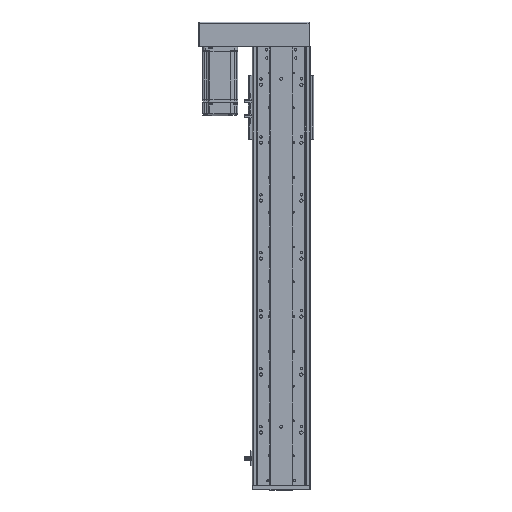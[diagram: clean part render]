
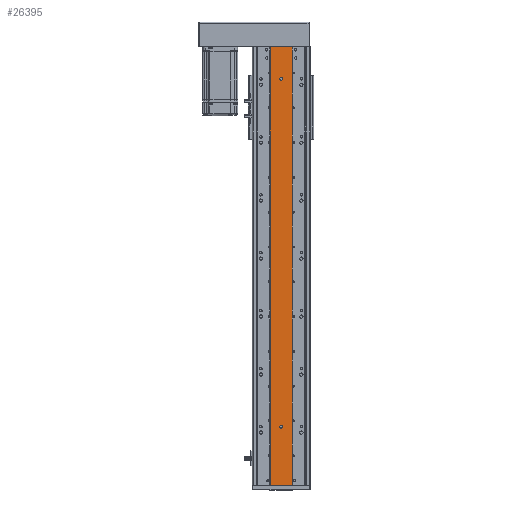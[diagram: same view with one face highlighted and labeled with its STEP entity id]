
A CAD part, top view. The second image highlights one B-rep face of the part: STEP entity #26395.
In plain terms, the highlighted planar face has unit normal (0, 0, 1).
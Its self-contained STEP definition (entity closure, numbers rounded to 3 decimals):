
#1651 = FACE_BOUND ( 'NONE', #31533, .T. ) ;
#1698 = FACE_OUTER_BOUND ( 'NONE', #31538, .T. ) ;
#1709 = FACE_BOUND ( 'NONE', #8040, .T. ) ;
#2670 = LINE ( 'NONE', #42540, #2678 ) ;
#2678 = VECTOR ( 'NONE', #42533, 1000. ) ;
#2750 = CIRCLE ( 'NONE', #6167, 2.5 ) ;
#2759 = VECTOR ( 'NONE', #42828, 1000. ) ;
#2766 = LINE ( 'NONE', #42788, #2780 ) ;
#2780 = VECTOR ( 'NONE', #42804, 1000. ) ;
#2807 = LINE ( 'NONE', #42827, #2759 ) ;
#2814 = CIRCLE ( 'NONE', #6159, 2.5 ) ;
#2828 = VECTOR ( 'NONE', #41299, 1000. ) ;
#2851 = LINE ( 'NONE', #41322, #2828 ) ;
#5846 = AXIS2_PLACEMENT_3D ( 'NONE', #32676, #32678, #32657 ) ;
#5858 = AXIS2_PLACEMENT_3D ( 'NONE', #32693, #32727, #32715 ) ;
#6159 = AXIS2_PLACEMENT_3D ( 'NONE', #42888, #42889, #42894 ) ;
#6167 = AXIS2_PLACEMENT_3D ( 'NONE', #42746, #42702, #42726 ) ;
#8040 = EDGE_LOOP ( 'NONE', ( #9925, #9957 ) ) ;
#9925 = ORIENTED_EDGE ( 'NONE', *, *, #48463, .T. ) ;
#9935 = ORIENTED_EDGE ( 'NONE', *, *, #48447, .T. ) ;
#9951 = ORIENTED_EDGE ( 'NONE', *, *, #49790, .T. ) ;
#9955 = ORIENTED_EDGE ( 'NONE', *, *, #49898, .F. ) ;
#9957 = ORIENTED_EDGE ( 'NONE', *, *, #49887, .T. ) ;
#9969 = ORIENTED_EDGE ( 'NONE', *, *, #49830, .T. ) ;
#9974 = ORIENTED_EDGE ( 'NONE', *, *, #49867, .T. ) ;
#9975 = ORIENTED_EDGE ( 'NONE', *, *, #49854, .F. ) ;
#11750 = CARTESIAN_POINT ( 'NONE',  ( -10645.079, 0., -17040.86 ) ) ;
#11751 = CARTESIAN_POINT ( 'NONE',  ( -10607.079, 0., -17040.86 ) ) ;
#11774 = CARTESIAN_POINT ( 'NONE',  ( -10645.079, 756., -17040.86 ) ) ;
#11840 = CARTESIAN_POINT ( 'NONE',  ( -10607.079, 756., -17040.86 ) ) ;
#15147 = CIRCLE ( 'NONE', #5858, 2.5 ) ;
#15169 = CIRCLE ( 'NONE', #5846, 2.5 ) ;
#19221 = AXIS2_PLACEMENT_3D ( 'NONE', #38457, #38476, #38467 ) ;
#23506 = VERTEX_POINT ( 'NONE', #11750 ) ;
#23547 = VERTEX_POINT ( 'NONE', #11751 ) ;
#23555 = VERTEX_POINT ( 'NONE', #11774 ) ;
#23596 = VERTEX_POINT ( 'NONE', #11840 ) ;
#26395 = ADVANCED_FACE ( 'NONE', ( #1651, #1709, #1698 ), #38480, .F. ) ;
#29028 = VERTEX_POINT ( 'NONE', #37520 ) ;
#29047 = VERTEX_POINT ( 'NONE', #37582 ) ;
#29055 = VERTEX_POINT ( 'NONE', #37586 ) ;
#29057 = VERTEX_POINT ( 'NONE', #37553 ) ;
#31533 = EDGE_LOOP ( 'NONE', ( #9935, #9969 ) ) ;
#31538 = EDGE_LOOP ( 'NONE', ( #9974, #9955, #9975, #9951 ) ) ;
#32657 = DIRECTION ( 'NONE',  ( -1., 0., 0. ) ) ;
#32676 = CARTESIAN_POINT ( 'NONE',  ( -10626.079, 701., -17040.86 ) ) ;
#32678 = DIRECTION ( 'NONE',  ( 0., 0., -1. ) ) ;
#32693 = CARTESIAN_POINT ( 'NONE',  ( -10626.079, 101., -17040.86 ) ) ;
#32715 = DIRECTION ( 'NONE',  ( -1., 0., 0. ) ) ;
#32727 = DIRECTION ( 'NONE',  ( 0., 0., -1. ) ) ;
#37520 = CARTESIAN_POINT ( 'NONE',  ( -10628.579, 701., -17040.86 ) ) ;
#37553 = CARTESIAN_POINT ( 'NONE',  ( -10623.579, 101., -17040.86 ) ) ;
#37582 = CARTESIAN_POINT ( 'NONE',  ( -10623.579, 701., -17040.86 ) ) ;
#37586 = CARTESIAN_POINT ( 'NONE',  ( -10628.579, 101., -17040.86 ) ) ;
#38457 = CARTESIAN_POINT ( 'NONE',  ( -10645.079, 756., -17040.86 ) ) ;
#38467 = DIRECTION ( 'NONE',  ( -1., 0., 0. ) ) ;
#38476 = DIRECTION ( 'NONE',  ( 0., 0., -1. ) ) ;
#38480 = PLANE ( 'NONE',  #19221 ) ;
#41299 = DIRECTION ( 'NONE',  ( 0., -1., 0. ) ) ;
#41322 = CARTESIAN_POINT ( 'NONE',  ( -10607.079, 756., -17040.86 ) ) ;
#42533 = DIRECTION ( 'NONE',  ( 0., -1., 0. ) ) ;
#42540 = CARTESIAN_POINT ( 'NONE',  ( -10645.079, 756., -17040.86 ) ) ;
#42702 = DIRECTION ( 'NONE',  ( 0., 0., -1. ) ) ;
#42726 = DIRECTION ( 'NONE',  ( -1., 0., 0. ) ) ;
#42746 = CARTESIAN_POINT ( 'NONE',  ( -10626.079, 701., -17040.86 ) ) ;
#42788 = CARTESIAN_POINT ( 'NONE',  ( -10645.079, 756., -17040.86 ) ) ;
#42804 = DIRECTION ( 'NONE',  ( 1., 0., 0. ) ) ;
#42827 = CARTESIAN_POINT ( 'NONE',  ( -10645.079, 0., -17040.86 ) ) ;
#42828 = DIRECTION ( 'NONE',  ( 1., 0., 0. ) ) ;
#42888 = CARTESIAN_POINT ( 'NONE',  ( -10626.079, 101., -17040.86 ) ) ;
#42889 = DIRECTION ( 'NONE',  ( 0., 0., -1. ) ) ;
#42894 = DIRECTION ( 'NONE',  ( -1., 0., 0. ) ) ;
#48447 = EDGE_CURVE ( 'NONE', #29047, #29028, #15169, .T. ) ;
#48463 = EDGE_CURVE ( 'NONE', #29057, #29055, #15147, .T. ) ;
#49790 = EDGE_CURVE ( 'NONE', #23555, #23506, #2670, .T. ) ;
#49830 = EDGE_CURVE ( 'NONE', #29028, #29047, #2750, .T. ) ;
#49854 = EDGE_CURVE ( 'NONE', #23555, #23596, #2766, .T. ) ;
#49867 = EDGE_CURVE ( 'NONE', #23506, #23547, #2807, .T. ) ;
#49887 = EDGE_CURVE ( 'NONE', #29055, #29057, #2814, .T. ) ;
#49898 = EDGE_CURVE ( 'NONE', #23596, #23547, #2851, .T. ) ;
